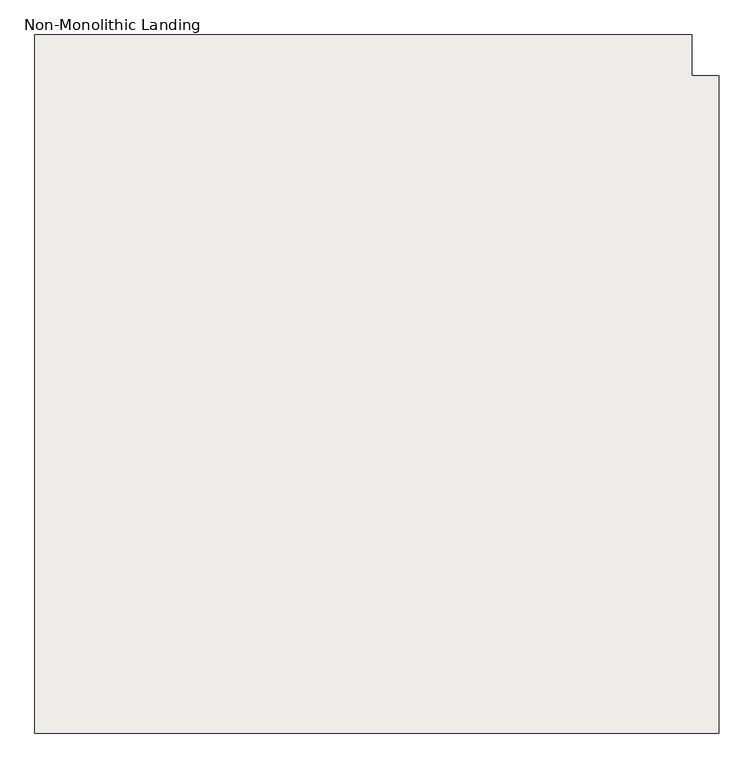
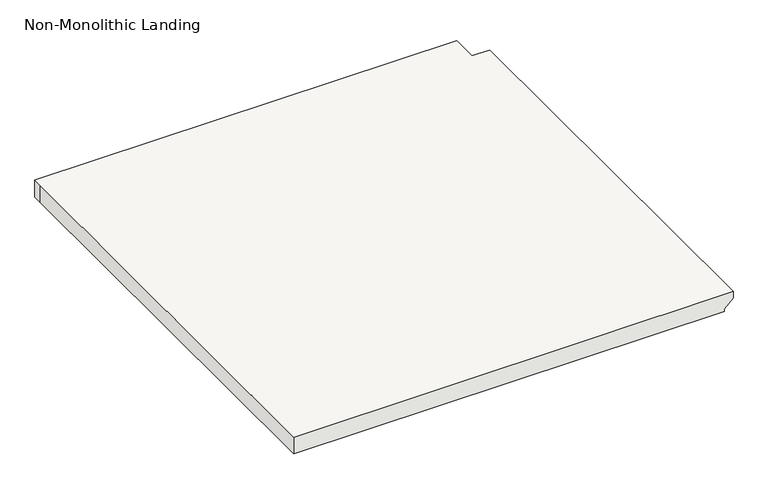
"""IFC4 building model written with IfcOpenShell, lengths in millimetres: slab geometry, Non-Monolithic Landing."""

from ifc_helpers import new_model, si_unit, origin, place, context, project, spatial, faceted_brep, source, transform, mapped, element, save


def non_monolithic_landing_b544ea09(model_context):
    return source(origin(), model_context, "Body", "Brep", [
        faceted_brep([(-17871.7273699, -13711.4253362, 6400.8), (-17871.7273699, -13660.6253362, 6400.8), (-17871.7273699, -13635.2253362, 6400.8), (-19090.9273699, -13635.2253362, 6400.8), (-19090.9273699, -13660.6253362, 6400.8), (-19090.9273699, -14930.6253362, 6400.8), (-17820.9273699, -14930.6253362, 6400.8), (-17820.9273699, -13711.4253362, 6400.8), (-17846.3273699, -13711.4253362, 6350.0), (-17846.3273699, -14930.6253362, 6350.0), (-19090.9273699, -14930.6253362, 6350.0), (-19090.9273699, -13660.6253362, 6350.0), (-19090.9273699, -13635.2253362, 6350.0), (-17871.7273699, -13635.2253362, 6350.0), (-17871.7273699, -13660.6253362, 6350.0), (-17871.7273699, -13711.4253362, 6350.0), (-17820.9273699, -13711.4253362, 6381.75), (-17846.3273699, -13711.4253362, 6356.35), (-17820.9273699, -14930.6253362, 6381.75), (-17846.3273699, -14930.6253362, 6356.35)], [[[0, 1, 2, 3, 4, 5, 6, 7]], [[8, 9, 10, 11, 12, 13, 14, 15]], [[0, 7, 16, 17, 8, 15]], [[2, 1, 14, 13]], [[4, 3, 12, 11]], [[5, 4, 11, 10]], [[16, 7, 6, 18]], [[17, 16, 18, 19]], [[9, 8, 17, 19]], [[1, 0, 15, 14]], [[3, 2, 13, 12]], [[6, 5, 10, 9, 19, 18]]]),
    ])


if __name__ == "__main__":
    model = new_model("IFC4")
    model_context = context("Model", 3, world=origin())
    ifc_project = project(units=[si_unit("LENGTHUNIT", "METRE", prefix="MILLI")], contexts=[model_context])
    site = spatial("IfcSite", under=ifc_project)
    building = spatial("IfcBuilding", under=site)
    placement = place(None, origin())
    non_monolithic_landing_shape = non_monolithic_landing_b544ea09(model_context)
    element("IfcSlab", 1, ObjectType="Non-Monolithic Landing", at=placement, inside=building, context=model_context, shape_type="MappedRepresentation", body=[
        mapped(non_monolithic_landing_shape, transform((0.0, 0.0, 0.0), x_axis=(1.0, 0.0, 0.0), y_axis=(0.0, 1.0, 0.0), z_axis=(0.0, 0.0, 1.0))),
    ])
    save(model, "model.ifc")
